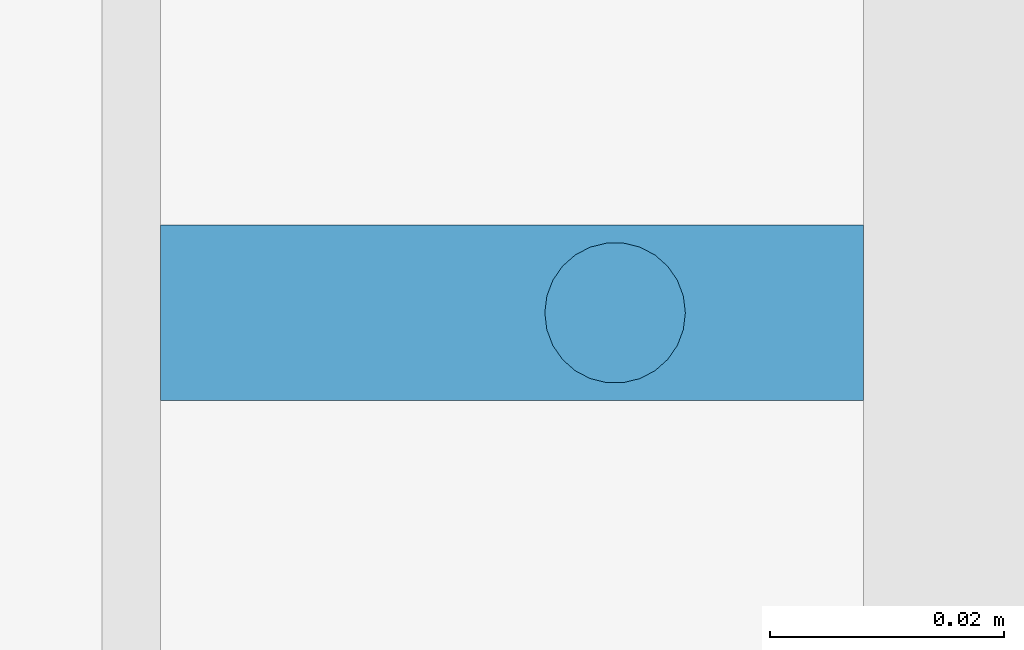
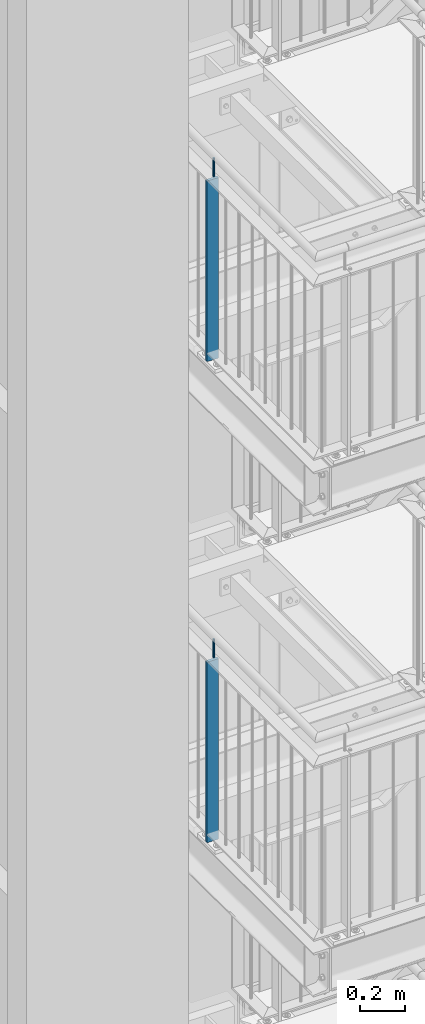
# One storey, part 19 of 825: 4 columns.
"""IFC2X3 building model written with IfcOpenShell, lengths in millimetres."""

from ifc_helpers import new_model, entity, si_unit, converted_unit, frame, origin, origin_with_axes, origin_2d, place, context, project, spatial, rectangle, circle, extrude, clip, halfspace, material, element, save


model = new_model("IFC2X3")

# Units and contexts
model_context = context("Model", 3, precision=1e-09, world=origin_with_axes())
ifc_project = project(units=[si_unit("LENGTHUNIT", "METRE", prefix="MILLI"), si_unit("AREAUNIT", "SQUARE_METRE"), si_unit("VOLUMEUNIT", "CUBIC_METRE"), converted_unit("PLANEANGLEUNIT", "DEGREE", entity("IfcPlaneAngleMeasure", 0.01745329), si_unit("PLANEANGLEUNIT", "RADIAN"), dimensions=[0, 0, 0, 0, 0, 0, 0])], contexts=[model_context])

# Site, building, storey
site_placement = place(None, origin_with_axes())
site = spatial("IfcSite", under=ifc_project, at=site_placement, Name="Cnopf'sche Kinderklinik", CompositionType="ELEMENT")
building_placement = place(site_placement, origin_with_axes())
building = spatial("IfcBuilding", under=site, at=building_placement, Name="Struktur 1", CompositionType="ELEMENT")
storey_placement = place(building_placement, origin_with_axes())
storey = spatial("IfcBuildingStorey", under=building, at=storey_placement, Name="Default Storey", CompositionType="ELEMENT", Elevation=0.0)

# Columns
ifc_material = material(Name="S235JR")
column_1_placement = place(None, frame((3271.713402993, 5461.738971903, 13618.723292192), z_axis=(0.0, 0.0, 1.0), x_axis=(0.0, 1.0, 0.0)))
element("IfcColumn", 1, at=column_1_placement, inside=storey, material=ifc_material, Name="Railing_Post_Landing#14", ObjectType="Railing_Post_Landing#14", context=model_context, shape_type="Clipping", body=[
    clip(clip(extrude(rectangle(XDim=15.0, YDim=60.0, at=origin_2d()), origin(), (0.0, 0.0, -1.0), 1070.646584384), halfspace(frame((-5461.738971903, 3271.713402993, -1019.722292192), z_axis=(0.0, 0.0, 1.0), x_axis=(0.0, -1.0, 0.0)), True)), halfspace(frame((-5461.738971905, 3271.713402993, -30.924292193), z_axis=(0.0, 0.0, -1.0), x_axis=(0.0, 1.0, 0.0)), True)),
])
column_2_placement = place(None, frame((3280.513402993, 5461.738971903, 13706.285281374), z_axis=(0.0, 0.0, 1.0), x_axis=(1.0, 0.0, 0.0)))
element("IfcColumn", 2, at=column_2_placement, inside=storey, material=ifc_material, Name="Bar#14", ObjectType="Bar#14", context=model_context, shape_type="Clipping", body=[
    clip(clip(extrude(circle(Radius=6.0, at=origin_2d()), origin(), (0.0, 0.0, -1.0), 116.970562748), halfspace(frame((-3280.513402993, -5461.738971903, -8.486281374), z_axis=(0.0, 0.0, -1.0), x_axis=(-1.0, 0.0, 0.0)), True)), halfspace(frame((-3280.513402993, -5461.738971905, -108.484281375), z_axis=(0.0, 0.0, 1.0), x_axis=(1.0, 0.0, 0.0)), True)),
])
column_3_placement = place(None, frame((3271.713402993, 5461.738971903, 16253.723292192), z_axis=(0.0, 0.0, 1.0), x_axis=(0.0, 1.0, 0.0)))
element("IfcColumn", 3, at=column_3_placement, inside=storey, material=ifc_material, Name="Railing_Post_Landing#14", ObjectType="Railing_Post_Landing#14", context=model_context, shape_type="Clipping", body=[
    clip(clip(extrude(rectangle(XDim=15.0, YDim=60.0, at=origin_2d()), origin(), (0.0, 0.0, -1.0), 1070.646584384), halfspace(frame((-5461.738971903, 3271.713402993, -1019.722292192), z_axis=(0.0, 0.0, 1.0), x_axis=(0.0, -1.0, 0.0)), True)), halfspace(frame((-5461.738971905, 3271.713402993, -30.924292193), z_axis=(0.0, 0.0, -1.0), x_axis=(0.0, 1.0, 0.0)), True)),
])
column_4_placement = place(None, frame((3280.513402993, 5461.738971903, 16341.285281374), z_axis=(0.0, 0.0, 1.0), x_axis=(1.0, 0.0, 0.0)))
element("IfcColumn", 4, at=column_4_placement, inside=storey, material=ifc_material, Name="Bar#14", ObjectType="Bar#14", context=model_context, shape_type="Clipping", body=[
    clip(clip(extrude(circle(Radius=6.0, at=origin_2d()), origin(), (0.0, 0.0, -1.0), 116.970562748), halfspace(frame((-3280.513402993, -5461.738971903, -8.486281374), z_axis=(0.0, 0.0, -1.0), x_axis=(-1.0, 0.0, 0.0)), True)), halfspace(frame((-3280.513402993, -5461.738971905, -108.484281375), z_axis=(0.0, 0.0, 1.0), x_axis=(1.0, 0.0, 0.0)), True)),
])

save(model, "model.ifc")
